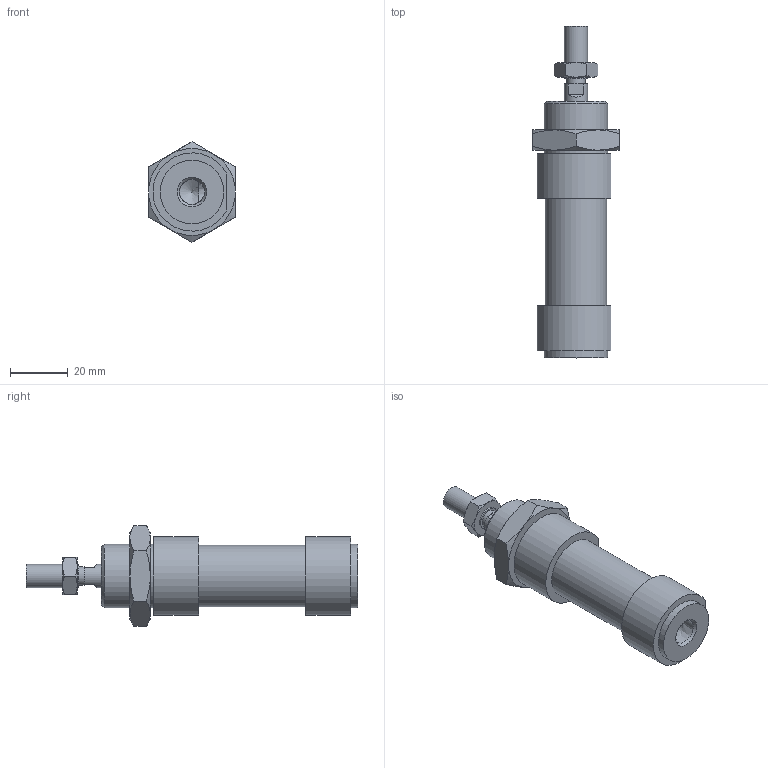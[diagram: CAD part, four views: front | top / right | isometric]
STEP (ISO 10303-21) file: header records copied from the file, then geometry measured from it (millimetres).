
FILE_DESCRIPTION((''),'2;1');
FILE_NAME('I:\Area Tecnica\Disegni\VARIE-3D\Componenti\1280\1281_##_####_#\1281_20_0000.iam.stp','2009-06-04T09:38:55',(''),(''),'Autodesk Inventor 2010','Autodesk Inventor 2010','');
FILE_SCHEMA(('AUTOMOTIVE_DESIGN { 1 0 10303 214 1 1 1 1 }'));
Length unit declared in the file: millimetre
Products named in the file (5): 1281_20_0000; C1281_20_0; S1280_20_0; 1200_20_05; 1200_20_06
Assembly tree (4 placements, depth 2):
  1281_20_0000
    C1281_20_0
    S1280_20_0
    1200_20_05
    1200_20_06
Bounding box: 30 x 114.5 x 34.64 mm (x, y, z)
Volume: 41317.9 mm3; surface area: 13477.2 mm2
Topology: 4 solids, 4 shells, 86 faces, 185 edges, 112 vertices
Faces by surface type: plane 36, cone 26, bspline 15, cylinder 9
Full cylindrical faces by diameter (mm): 6.5 x1, 8 x3, 21.2 x1, 22 x2
Entity records: 2537 total; most frequent: CARTESIAN_POINT 698, DIRECTION 332, ORIENTED_EDGE 310, EDGE_CURVE 155, AXIS2_PLACEMENT_3D 148, EDGE_LOOP 120, VERTEX_POINT 103, STYLED_ITEM 90
